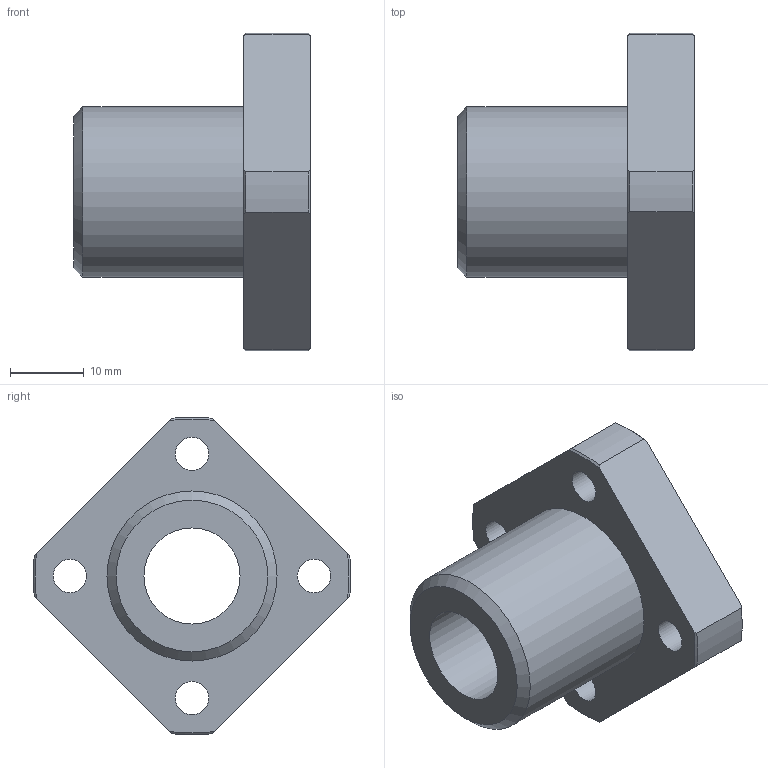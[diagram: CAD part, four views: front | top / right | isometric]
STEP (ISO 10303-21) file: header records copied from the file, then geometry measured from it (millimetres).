
FILE_DESCRIPTION(('STEP AP203'),'1');
FILE_NAME('//192.168.1.1/share/s-4 技術開発/s-4-4_CAD/s-4-4-3_見直し済み/PBC LINEAR修正済み/3D途中/SFPJ/SFPJ/SFPJ13.step','2022-03-24T05:52:41',(' '),(' '),'Spatial InterOp 3D',' ',' ');
FILE_SCHEMA(('CONFIG_CONTROL_DESIGN'));
Length unit declared in the file: millimetre
Products named in the file (1): 1
Bounding box: 32 x 42.96 x 42.96 mm (x, y, z)
Volume: 14377.7 mm3; surface area: 6579.3 mm2
Topology: 1 solids, 1 shells, 34 faces, 85 edges, 58 vertices
Faces by surface type: cylinder 14, plane 11, cone 9
Full cylindrical faces by diameter (mm): 4.5 x4, 7.5 x4, 13 x1, 23 x1
Entity records: 1018 total; most frequent: CARTESIAN_POINT 205, DIRECTION 160, ORIENTED_EDGE 138, AXIS2_PLACEMENT_3D 72, EDGE_CURVE 69, EDGE_LOOP 60, VERTEX_POINT 53, FACE_OUTER_BOUND 44
